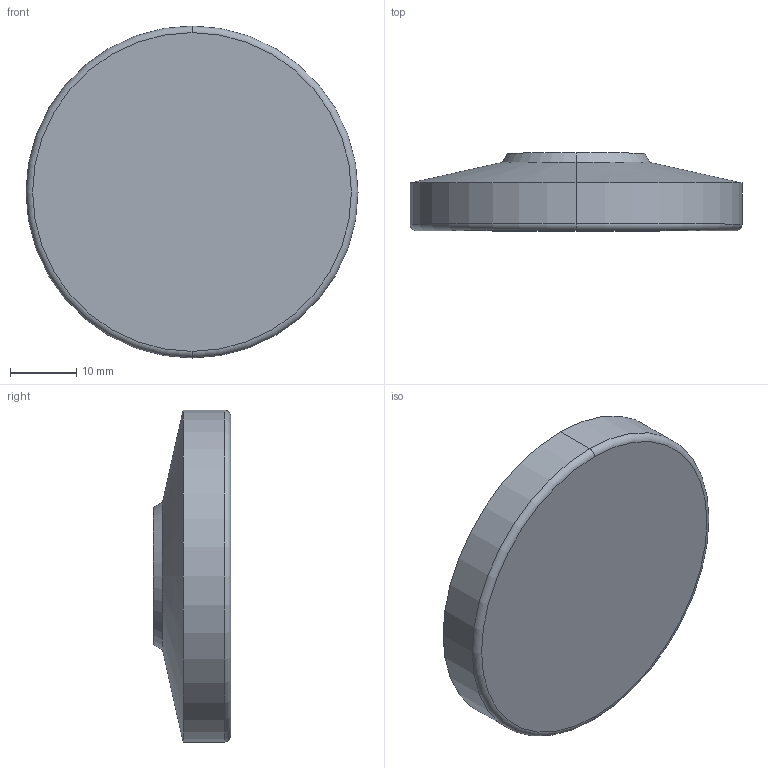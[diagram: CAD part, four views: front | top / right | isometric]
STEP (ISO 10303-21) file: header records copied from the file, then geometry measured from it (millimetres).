
FILE_DESCRIPTION (( 'STEP AP214' ), '1' );
FILE_NAME ('6311.3-50-11,5-N.step', '2023-04-17T05:34:34', ( '' ), ( '' ), 'SwSTEP 2.0', 'SolidWorks 2022', '' );
FILE_SCHEMA (( 'AUTOMOTIVE_DESIGN' ));
Length unit declared in the file: millimetre
Products named in the file (1): 6311.3-50-11,5-N
Bounding box: 50 x 11.7 x 50 mm (x, y, z)
Volume: 17376.4 mm3; surface area: 5951.3 mm2
Topology: 1 solids, 1 shells, 30 faces, 67 edges, 42 vertices
Faces by surface type: cylinder 12, torus 6, plane 6, cone 4, sphere 2
Entity records: 974 total; most frequent: DIRECTION 169, CARTESIAN_POINT 160, ORIENTED_EDGE 134, AXIS2_PLACEMENT_3D 75, EDGE_CURVE 67, CIRCLE 44, VERTEX_POINT 42, EDGE_LOOP 33
